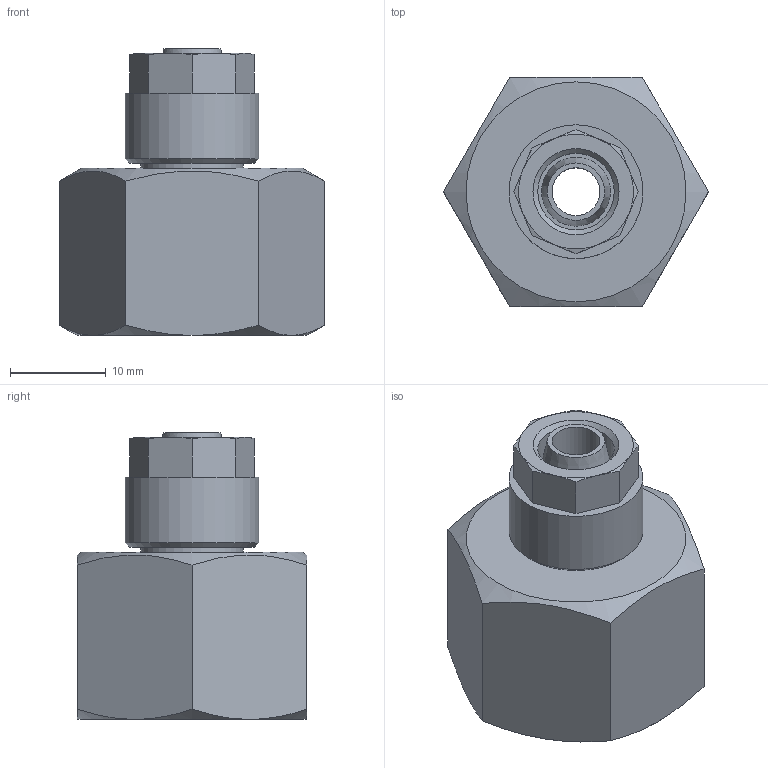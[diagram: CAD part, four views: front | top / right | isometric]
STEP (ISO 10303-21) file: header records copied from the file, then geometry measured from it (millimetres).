
FILE_DESCRIPTION(/* description */ (''),/* implementation_level */ '2;1');
FILE_NAME(/* name */ '10308_302_86_G12_26.06.17',/* time_stamp */ '2017-06-26T15:06:29+02:00',/* author */ (''),/* organization */ (''),/* preprocessor_version */ 'ST-DEVELOPER v16.5',/* originating_system */ 'HiCAD 2016 2102.2 Build 618',/* authorisation */ '');
FILE_SCHEMA (('AUTOMOTIVE_DESIGN { 1 0 10303 214 1 1 1 1 }'));
Length unit declared in the file: millimetre
Products named in the file (3): Root; 10308; 17006
Assembly tree (2 placements, depth 2):
  Root
    10308
    17006
Bounding box: 27.71 x 24 x 30 mm (x, y, z)
Volume: 5742.6 mm3; surface area: 4775.6 mm2
Topology: 2 solids, 2 shells, 57 faces, 128 edges, 81 vertices
Faces by surface type: cone 25, plane 23, cylinder 8, torus 1
Full cylindrical faces by diameter (mm): 5 x1, 6.8 x1, 8 x1, 10.7 x1, 10.773 x1, 12 x1, 14 x1, 18.631 x1
Entity records: 2449 total; most frequent: DIRECTION 294, CARTESIAN_POINT 228, PRESENTATION_STYLE_ASSIGNMENT 196, COLOUR_RGB 195, DRAUGHTING_PRE_DEFINED_CURVE_FONT 194, CURVE_STYLE 194, OVER_RIDING_STYLED_ITEM 194, ORIENTED_EDGE 194
